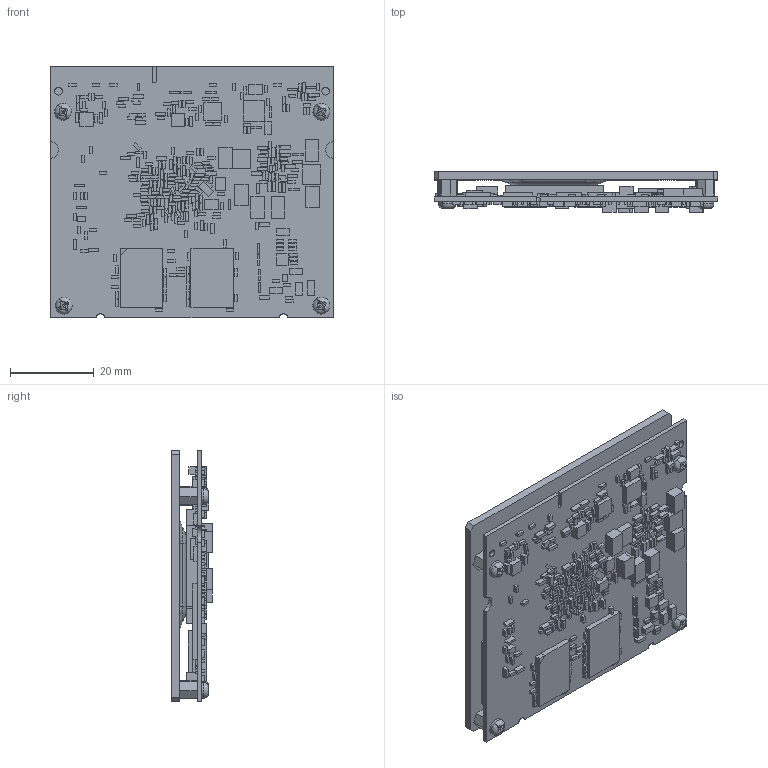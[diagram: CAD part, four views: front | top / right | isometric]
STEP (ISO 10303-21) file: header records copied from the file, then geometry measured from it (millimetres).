
FILE_DESCRIPTION (( 'STEP AP214' ), '1' );
FILE_NAME ('SOM-AM57x + Heat Plate Assembly.dxf.STEP', '2016-05-10T10:07:00', ( '' ), ( '' ), 'SwSTEP 2.0', 'SolidWorks 2015', '' );
FILE_SCHEMA (( 'AUTOMOTIVE_DESIGN' ));
Length unit declared in the file: millimetre
Products named in the file (6): 380G52990(Screw, M2, Flat head, Philips, 3.5mm length, StainlessSteel, Nickel or Zinc plating); 206B10430(Heat Spreader SOM-AM57X); 380J52020(Screw, M2, Pan head, Philips, 3.5mm +-0.1mm Length, stainless Steel, Nickel or Zinc plating); 383D52530(Spacer, Hexagonal, M2x.4 thread, 4.14mm Length, Brass with tin coating); PCB_SOM-AM57x-SolidWorks; SOM-AM57x + Heat Plate Assembly.dxf
Assembly tree (14 placements, depth 2):
  SOM-AM57x + Heat Plate Assembly.dxf
    PCB_SOM-AM57x-SolidWorks
    383D52530(Spacer, Hexagonal, M2x.4 thread, 4.14mm Length, Brass with tin coating)  x4
    380J52020(Screw, M2, Pan head, Philips, 3.5mm +-0.1mm Length, stainless Steel, Nickel or Zinc plating)  x4
    206B10430(Heat Spreader SOM-AM57X)
    380G52990(Screw, M2, Flat head, Philips, 3.5mm length, StainlessSteel, Nickel or Zinc plating)  x4
Bounding box: 67.6 x 9.75 x 60 mm (x, y, z)
Volume: 16851 mm3; surface area: 21992.3 mm2
Topology: 221 solids, 221 shells, 3038 faces, 6928 edges, 4598 vertices
Faces by surface type: plane 2880, cylinder 102, bspline 32, torus 16, cone 8
Entity records: 111738 total; most frequent: CARTESIAN_POINT 14780, ORIENTED_EDGE 12980, DIRECTION 12319, EDGE_CURVE 6490, LINE 6277, VECTOR 6277, VERTEX_POINT 4316, EDGE_LOOP 3140
